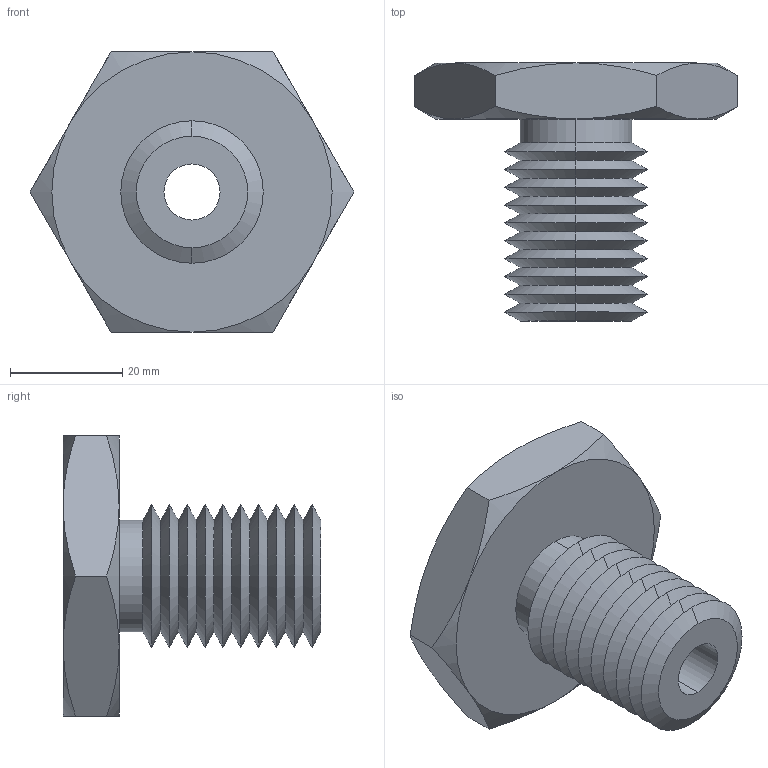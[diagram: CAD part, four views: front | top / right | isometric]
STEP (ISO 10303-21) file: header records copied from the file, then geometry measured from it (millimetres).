
FILE_DESCRIPTION (( 'STEP AP203' ), '1' );
FILE_NAME ('63302.W5100_M10x1,5.step', '2013-12-08T11:38:35', ( 'User' ), ( '' ), 'SwSTEP 2.0', 'SolidWorks 2009', '' );
FILE_SCHEMA (( 'CONFIG_CONTROL_DESIGN' ));
Length unit declared in the file: millimetre
Products named in the file (1): 63302.W5100_M10x1,5
Bounding box: 57.73 x 46 x 50 mm (x, y, z)
Volume: 31904.4 mm3; surface area: 11909.9 mm2
Topology: 1 solids, 1 shells, 67 faces, 138 edges, 74 vertices
Faces by surface type: cone 54, plane 9, cylinder 4
Entity records: 1939 total; most frequent: CARTESIAN_POINT 464, DIRECTION 312, ORIENTED_EDGE 276, EDGE_CURVE 138, AXIS2_PLACEMENT_3D 130, VERTEX_POINT 74, EDGE_LOOP 70, FACE_OUTER_BOUND 67
